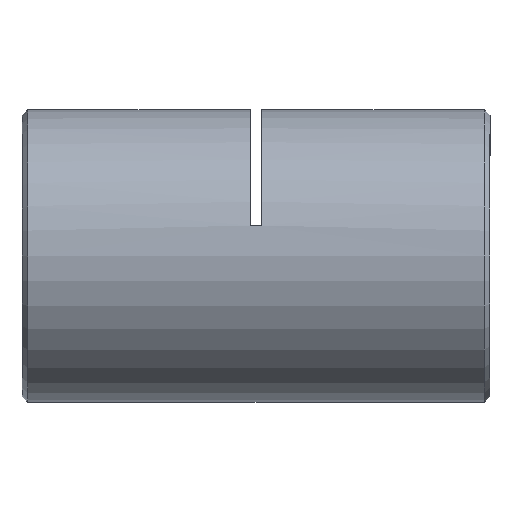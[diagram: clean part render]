
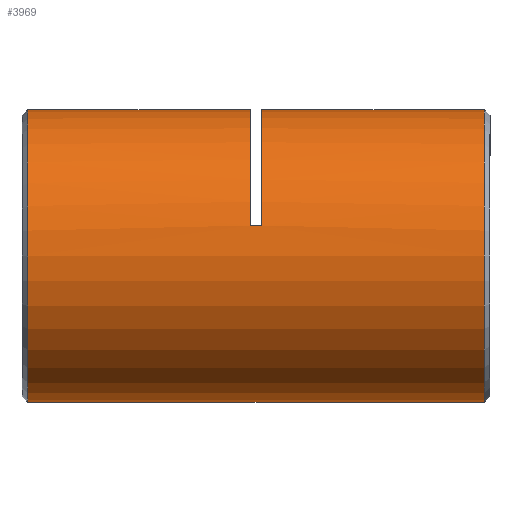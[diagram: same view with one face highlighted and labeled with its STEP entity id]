
A CAD part, left-side view. The second image highlights one B-rep face of the part: STEP entity #3969.
In plain terms, the highlighted cylindrical face has radius 12.5 mm (diameter 25 mm), a partial arc.
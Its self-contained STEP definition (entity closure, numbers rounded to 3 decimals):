
#31 = CARTESIAN_POINT ( 'NONE',  ( 0., 39.75, -12.5 ) ) ;
#52 = DIRECTION ( 'NONE',  ( 0., 1., 0. ) ) ;
#55 = ORIENTED_EDGE ( 'NONE', *, *, #1573, .T. ) ;
#83 = DIRECTION ( 'NONE',  ( 0., -1., 0. ) ) ;
#200 = VERTEX_POINT ( 'NONE', #1680 ) ;
#208 = LINE ( 'NONE', #1558, #715 ) ;
#283 = ORIENTED_EDGE ( 'NONE', *, *, #5552, .T. ) ;
#293 = AXIS2_PLACEMENT_3D ( 'NONE', #5140, #2963, #4731 ) ;
#417 = ORIENTED_EDGE ( 'NONE', *, *, #3224, .T. ) ;
#503 = VECTOR ( 'NONE', #2063, 1000. ) ;
#615 = VERTEX_POINT ( 'NONE', #3671 ) ;
#638 = DIRECTION ( 'NONE',  ( 0., -1., 0. ) ) ;
#715 = VECTOR ( 'NONE', #3692, 1000. ) ;
#800 = CARTESIAN_POINT ( 'NONE',  ( 0., 40.5, 12.5 ) ) ;
#952 = DIRECTION ( 'NONE',  ( 0., 0., 1. ) ) ;
#1042 = CIRCLE ( 'NONE', #5536, 12.5 ) ;
#1047 = FACE_OUTER_BOUND ( 'NONE', #3772, .T. ) ;
#1065 = VERTEX_POINT ( 'NONE', #2581 ) ;
#1140 = CARTESIAN_POINT ( 'NONE',  ( 0., 0.75, 12.5 ) ) ;
#1228 = DIRECTION ( 'NONE',  ( 0., -1., 0. ) ) ;
#1310 = CARTESIAN_POINT ( 'NONE',  ( 0., 39.75, 12.5 ) ) ;
#1377 = ORIENTED_EDGE ( 'NONE', *, *, #1868, .F. ) ;
#1558 = CARTESIAN_POINT ( 'NONE',  ( -12.226, 20.25, 2.604 ) ) ;
#1573 = EDGE_CURVE ( 'NONE', #615, #200, #4937, .T. ) ;
#1680 = CARTESIAN_POINT ( 'NONE',  ( 0., 20.75, 12.5 ) ) ;
#1868 = EDGE_CURVE ( 'NONE', #2252, #4230, #5632, .T. ) ;
#2063 = DIRECTION ( 'NONE',  ( 0., -1., 0. ) ) ;
#2252 = VERTEX_POINT ( 'NONE', #4711 ) ;
#2351 = DIRECTION ( 'NONE',  ( 0., -1., 0. ) ) ;
#2447 = AXIS2_PLACEMENT_3D ( 'NONE', #4038, #5408, #952 ) ;
#2581 = CARTESIAN_POINT ( 'NONE',  ( -12.226, 19.75, 2.604 ) ) ;
#2682 = VERTEX_POINT ( 'NONE', #4467 ) ;
#2769 = CYLINDRICAL_SURFACE ( 'NONE', #5640, 12.5 ) ;
#2773 = CIRCLE ( 'NONE', #293, 12.5 ) ;
#2835 = EDGE_CURVE ( 'NONE', #1065, #615, #208, .T. ) ;
#2963 = DIRECTION ( 'NONE',  ( 0., 1., 0. ) ) ;
#3224 = EDGE_CURVE ( 'NONE', #5504, #5130, #5385, .T. ) ;
#3589 = DIRECTION ( 'NONE',  ( 0., 0., -1. ) ) ;
#3671 = CARTESIAN_POINT ( 'NONE',  ( -12.226, 20.75, 2.604 ) ) ;
#3681 = DIRECTION ( 'NONE',  ( 0., 0., 1. ) ) ;
#3692 = DIRECTION ( 'NONE',  ( 0., 1., 0. ) ) ;
#3704 = LINE ( 'NONE', #4649, #5339 ) ;
#3772 = EDGE_LOOP ( 'NONE', ( #4993, #417, #283, #4872, #1377, #4343, #5428, #55 ) ) ;
#3969 = ADVANCED_FACE ( 'NONE', ( #1047 ), #2769, .T. ) ;
#4033 = CARTESIAN_POINT ( 'NONE',  ( 0., 39.75, 0. ) ) ;
#4038 = CARTESIAN_POINT ( 'NONE',  ( 0., 20.75, 0. ) ) ;
#4105 = DIRECTION ( 'NONE',  ( 0., 0., -1. ) ) ;
#4230 = VERTEX_POINT ( 'NONE', #1140 ) ;
#4343 = ORIENTED_EDGE ( 'NONE', *, *, #4879, .F. ) ;
#4467 = CARTESIAN_POINT ( 'NONE',  ( 0., 0.75, -12.5 ) ) ;
#4649 = CARTESIAN_POINT ( 'NONE',  ( 0., 40.5, 12.5 ) ) ;
#4650 = AXIS2_PLACEMENT_3D ( 'NONE', #4033, #83, #3589 ) ;
#4711 = CARTESIAN_POINT ( 'NONE',  ( 0., 19.75, 12.5 ) ) ;
#4731 = DIRECTION ( 'NONE',  ( 0., 0., 1. ) ) ;
#4736 = EDGE_CURVE ( 'NONE', #5504, #200, #3704, .T. ) ;
#4872 = ORIENTED_EDGE ( 'NONE', *, *, #5680, .T. ) ;
#4879 = EDGE_CURVE ( 'NONE', #1065, #2252, #2773, .T. ) ;
#4937 = CIRCLE ( 'NONE', #2447, 12.5 ) ;
#4993 = ORIENTED_EDGE ( 'NONE', *, *, #4736, .F. ) ;
#5001 = VECTOR ( 'NONE', #1228, 1000. ) ;
#5130 = VERTEX_POINT ( 'NONE', #31 ) ;
#5140 = CARTESIAN_POINT ( 'NONE',  ( 0., 19.75, 0. ) ) ;
#5182 = LINE ( 'NONE', #5232, #5001 ) ;
#5232 = CARTESIAN_POINT ( 'NONE',  ( 0., 40.5, -12.5 ) ) ;
#5339 = VECTOR ( 'NONE', #2351, 1000. ) ;
#5341 = CARTESIAN_POINT ( 'NONE',  ( 0., 0.75, 0. ) ) ;
#5385 = CIRCLE ( 'NONE', #4650, 12.5 ) ;
#5388 = CARTESIAN_POINT ( 'NONE',  ( 0., 40.5, 0. ) ) ;
#5408 = DIRECTION ( 'NONE',  ( 0., 1., 0. ) ) ;
#5428 = ORIENTED_EDGE ( 'NONE', *, *, #2835, .T. ) ;
#5504 = VERTEX_POINT ( 'NONE', #1310 ) ;
#5536 = AXIS2_PLACEMENT_3D ( 'NONE', #5341, #52, #3681 ) ;
#5552 = EDGE_CURVE ( 'NONE', #5130, #2682, #5182, .T. ) ;
#5632 = LINE ( 'NONE', #800, #503 ) ;
#5640 = AXIS2_PLACEMENT_3D ( 'NONE', #5388, #638, #4105 ) ;
#5680 = EDGE_CURVE ( 'NONE', #2682, #4230, #1042, .T. ) ;
